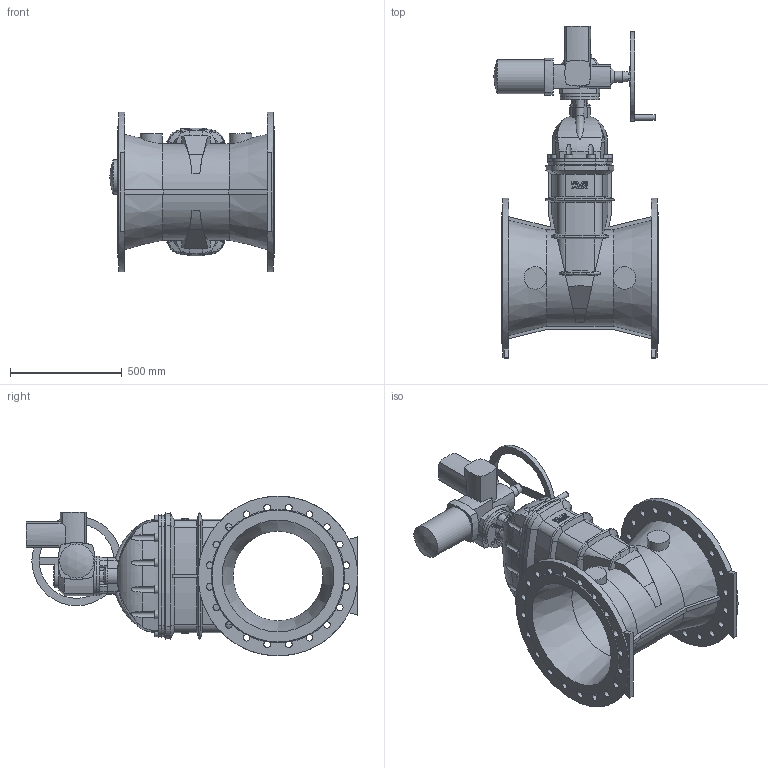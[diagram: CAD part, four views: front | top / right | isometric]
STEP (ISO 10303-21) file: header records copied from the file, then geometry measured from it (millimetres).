
FILE_DESCRIPTION (( 'STEP AP203' ), '1' );
FILE_NAME ('O_15_72_DN500_00_step with AUMA.STEP', '2015-06-08T08:15:33', ( '' ), ( '' ), 'SwSTEP 2.0', 'SolidWorks 2012', '' );
FILE_SCHEMA (( 'CONFIG_CONTROL_DESIGN' ));
Length unit declared in the file: millimetre
Products named in the file (1): O_15_72_DN500_00_step with AUMA
Bounding box: 735 x 1484.5 x 715 mm (x, y, z)
Volume: 106738157.9 mm3; surface area: 4568471.6 mm2
Topology: 1 solids, 1 shells, 537 faces, 1510 edges, 965 vertices
Faces by surface type: plane 207, cylinder 205, cone 78, torus 30, bspline 16, sphere 1
Full cylindrical faces by diameter (mm): 12 x4, 18 x4, 25 x1, 29.5 x40, 49.792 x1, 85 x1, 100 x2, 106 x1, 153 x1, 175 x2, 334 x1, 400 x2, 715 x2
Entity records: 20098 total; most frequent: CARTESIAN_POINT 7017, ORIENTED_EDGE 2760, DIRECTION 2654, EDGE_CURVE 1380, AXIS2_PLACEMENT_3D 1074, VERTEX_POINT 904, EDGE_LOOP 682, FACE_OUTER_BOUND 599
